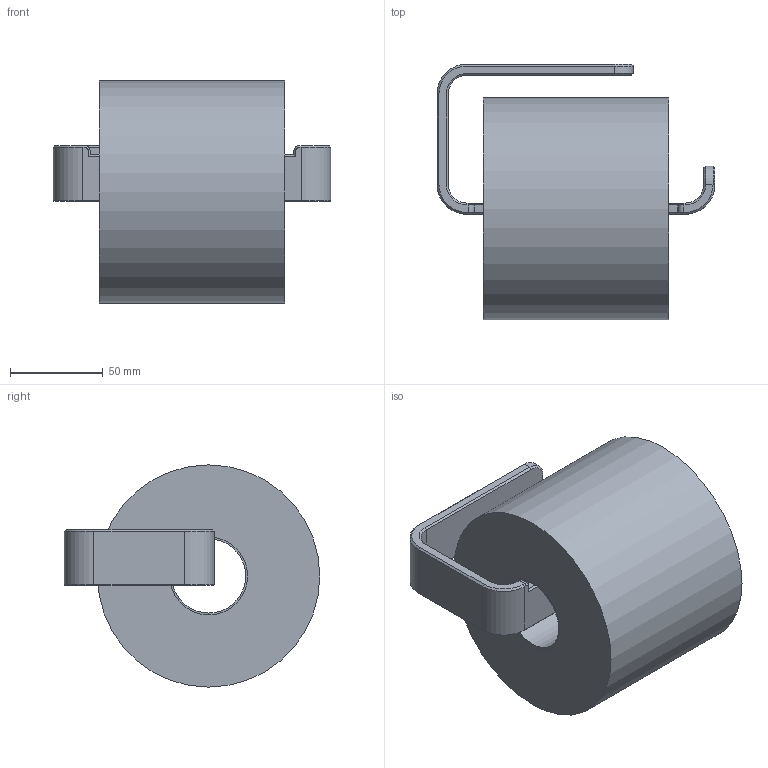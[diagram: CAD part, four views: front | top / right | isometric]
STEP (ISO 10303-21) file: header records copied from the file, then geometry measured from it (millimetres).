
FILE_DESCRIPTION(/* description */ (''),/* implementation_level */ '2;1');
FILE_NAME(/* name */ '/Users/renejurack/Desktop/toilet paper holder.step',/* time_stamp */ '2020-01-02T15:02:47+01:00',/* author */ (''),/* organization */ (''),/* preprocessor_version */ 'ST-DEVELOPER v18',/* originating_system */ 'Autodesk Translation Framework v8.12.0.6',/* authorisation */ '');
FILE_SCHEMA (('AUTOMOTIVE_DESIGN { 1 0 10303 214 3 1 1 }'));
Length unit declared in the file: millimetre
Products named in the file (5): Halter; toilet-paper-roll; Tube; Roll; Halter_1
Assembly tree (4 placements, depth 3):
  Halter
    toilet-paper-roll
      Tube
      Roll
    Halter_1
Bounding box: 150 x 138 x 120 mm (x, y, z)
Volume: 1060121.2 mm3; surface area: 118888.5 mm2
Topology: 3 solids, 3 shells, 88 faces, 198 edges, 116 vertices
Faces by surface type: plane 51, cone 22, cylinder 15
Full cylindrical faces by diameter (mm): 40 x1, 42 x2, 120 x1
Entity records: 2567 total; most frequent: DIRECTION 446, CARTESIAN_POINT 412, ORIENTED_EDGE 396, EDGE_CURVE 198, AXIS2_PLACEMENT_3D 150, LINE 146, VECTOR 146, VERTEX_POINT 116
